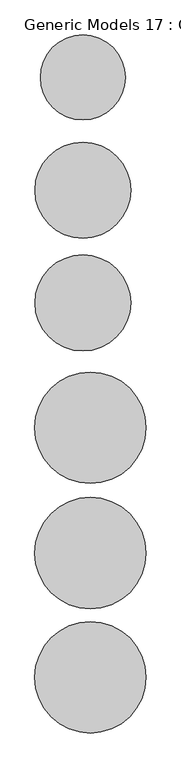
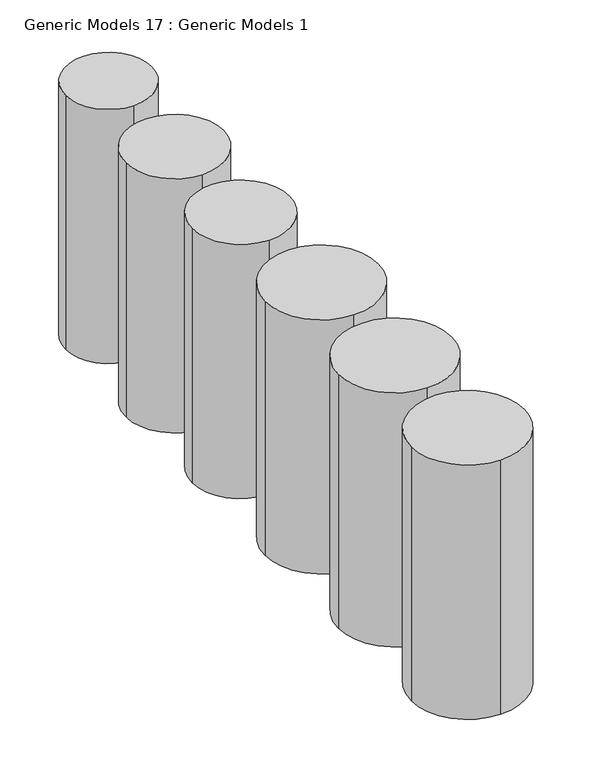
"""IFC4 building model written with IfcOpenShell, lengths in millimetres: proxy geometry, Generic Models 17 : Generic Models 1."""

from ifc_helpers import new_model, si_unit, point, frame, frame_2d, origin, place, context, project, spatial, circle_curve, trimmed, segment, composite_curve, outline, extrude, source, transform, mapped, element, save


def generic_models_17_generic_models_1_3472ba46(model_context):
    return source(origin(), model_context, "Body", "SweptSolid", [
        extrude(outline(composite_curve([segment(trimmed(circle_curve(frame_2d((67247.3675918, -23248.90664)), 1874.6585337), [point((69122.0261163, -23249.0926753))], [point((67247.3369722, -25123.5651735))], False, "CARTESIAN"), True, "CONTINUOUS"), segment(trimmed(circle_curve(frame_2d((67247.2838999, -23249.1200948)), 1874.4450795), [point((67247.3369722, -25123.5651735))], [point((65372.838822, -23249.0428553))], False, "CARTESIAN"), True, "CONTINUOUS"), segment(trimmed(circle_curve(frame_2d((67247.2839012, -23249.0730216)), 1874.4450795), [point((65372.838822, -23249.0428553))], [point((67247.3345161, -21374.6279428))], False, "CARTESIAN"), True, "CONTINUOUS"), segment(trimmed(circle_curve(frame_2d((67247.3675926, -23249.2864763)), 1874.6585337), [point((67247.3345161, -21374.6279428))], [point((69122.0261163, -23249.0926753))], False, "CARTESIAN"), True, "CONTINUOUS")], self_intersect=False)), frame((0.0, 0.0, 44170.0), z_axis=(0.0, 0.0, 1.0), x_axis=(1.0, 0.0, 0.0)), (0.0, 0.0, 1.0), 8903.0475173),
        extrude(outline(composite_curve([segment(trimmed(circle_curve(frame_2d((67247.3675918, -19068.90664)), 1874.6585337), [point((69122.0261163, -19069.0926753))], [point((67247.3369722, -20943.5651735))], False, "CARTESIAN"), True, "CONTINUOUS"), segment(trimmed(circle_curve(frame_2d((67247.2838999, -19069.1200948)), 1874.4450795), [point((67247.3369722, -20943.5651735))], [point((65372.838822, -19069.0428553))], False, "CARTESIAN"), True, "CONTINUOUS"), segment(trimmed(circle_curve(frame_2d((67247.2839012, -19069.0730216)), 1874.4450795), [point((65372.838822, -19069.0428553))], [point((67247.3345161, -17194.6279428))], False, "CARTESIAN"), True, "CONTINUOUS"), segment(trimmed(circle_curve(frame_2d((67247.3675926, -19069.2864763)), 1874.6585337), [point((67247.3345161, -17194.6279428))], [point((69122.0261163, -19069.0926753))], False, "CARTESIAN"), True, "CONTINUOUS")], self_intersect=False)), frame((0.0, 0.0, 44170.0), z_axis=(0.0, 0.0, 1.0), x_axis=(1.0, 0.0, 0.0)), (0.0, 0.0, 1.0), 8903.0475173),
        extrude(outline(composite_curve([segment(trimmed(circle_curve(frame_2d((67247.3675918, -14848.8034499)), 1874.6585337), [point((69122.0261163, -14848.9894851))], [point((67247.3369722, -16723.4619834))], False, "CARTESIAN"), True, "CONTINUOUS"), segment(trimmed(circle_curve(frame_2d((67247.2838999, -14849.0169046)), 1874.4450795), [point((67247.3369722, -16723.4619834))], [point((65372.838822, -14848.9396652))], False, "CARTESIAN"), True, "CONTINUOUS"), segment(trimmed(circle_curve(frame_2d((67247.2839012, -14848.9698315)), 1874.4450795), [point((65372.838822, -14848.9396652))], [point((67247.3345161, -12974.5247527))], False, "CARTESIAN"), True, "CONTINUOUS"), segment(trimmed(circle_curve(frame_2d((67247.3675926, -14849.1832861)), 1874.6585337), [point((67247.3345161, -12974.5247527))], [point((69122.0261163, -14848.9894851))], False, "CARTESIAN"), True, "CONTINUOUS")], self_intersect=False)), frame((0.0, 0.0, 44170.0), z_axis=(0.0, 0.0, 1.0), x_axis=(1.0, 0.0, 0.0)), (0.0, 0.0, 1.0), 8903.0475173),
        extrude(outline(composite_curve([segment(trimmed(circle_curve(frame_2d((66992.4838751, -10648.9366833)), 1615.9138404), [point((68608.3977127, -10648.8403549))], [point((66992.2376609, -12264.850505))], False, "CARTESIAN"), True, "CONTINUOUS"), segment(trimmed(circle_curve(frame_2d((66992.2001529, -10648.9900536)), 1615.8604518), [point((66992.2376609, -12264.850505))], [point((65376.3397024, -10648.923661))], False, "CARTESIAN"), True, "CONTINUOUS"), segment(trimmed(circle_curve(frame_2d((66992.4136058, -10648.8663854)), 1616.0739044), [point((65376.3397024, -10648.923661))], [point((66992.2344503, -9032.792491))], False, "CARTESIAN"), True, "CONTINUOUS"), segment(trimmed(circle_curve(frame_2d((66992.2704652, -10648.91974)), 1616.1272495), [point((66992.2344503, -9032.792491))], [point((68608.3977127, -10648.8403549))], False, "CARTESIAN"), True, "CONTINUOUS")], self_intersect=False)), frame((0.0, 0.0, 44170.0), z_axis=(0.0, 0.0, 1.0), x_axis=(1.0, 0.0, 0.0)), (0.0, 0.0, 1.0), 8903.0475173),
        extrude(outline(composite_curve([segment(trimmed(circle_curve(frame_2d((66992.2704682, -6854.5247072)), 1616.1272495), [point((68608.3977136, -6854.4107769))], [point((66992.2565365, -8470.6519566))], False, "CARTESIAN"), True, "CONTINUOUS"), segment(trimmed(circle_curve(frame_2d((66992.4136092, -6854.5780599)), 1616.0739044), [point((66992.2565365, -8470.6519566))], [point((65376.3397049, -6854.5675123))], False, "CARTESIAN"), True, "CONTINUOUS"), segment(trimmed(circle_curve(frame_2d((66992.2001527, -6854.454395)), 1615.8604518), [point((65376.3397049, -6854.5675123))], [point((66992.2547861, -5238.5939441))], False, "CARTESIAN"), True, "CONTINUOUS"), segment(trimmed(circle_curve(frame_2d((66992.4838761, -6854.5077683)), 1615.9138404), [point((66992.2547861, -5238.5939441))], [point((68608.3977136, -6854.4107769))], False, "CARTESIAN"), True, "CONTINUOUS")], self_intersect=False)), frame((0.0, 0.0, 44170.0), z_axis=(0.0, 0.0, 1.0), x_axis=(1.0, 0.0, 0.0)), (0.0, 0.0, 1.0), 8903.0475173),
        extrude(outline(composite_curve([segment(trimmed(circle_curve(frame_2d((66992.2322183, -3060.310836)), 1429.8460015), [point((66992.2602292, -4490.1568373))], [point((65562.3862171, -3060.277069))], False, "CARTESIAN"), True, "CONTINUOUS"), segment(trimmed(circle_curve(frame_2d((66992.2855933, -3060.0912347)), 1429.8993883), [point((65562.3862171, -3060.277069))], [point((66992.2714796, -1630.1918465))], False, "CARTESIAN"), True, "CONTINUOUS"), segment(trimmed(circle_curve(frame_2d((66992.3984603, -3060.1445917)), 1429.9527508), [point((66992.2714796, -1630.1918465))], [point((68422.3512084, -3060.2337905))], False, "CARTESIAN"), True, "CONTINUOUS"), segment(trimmed(circle_curve(frame_2d((66992.4518203, -3060.2574618)), 1429.8993883), [point((68422.3512084, -3060.2337905))], [point((66992.2602292, -4490.1568373))], False, "CARTESIAN"), True, "CONTINUOUS")], self_intersect=False)), frame((0.0, 0.0, 44170.0), z_axis=(0.0, 0.0, 1.0), x_axis=(1.0, 0.0, 0.0)), (0.0, 0.0, 1.0), 8903.0475173),
    ])


if __name__ == "__main__":
    model = new_model("IFC4")
    model_context = context("Model", 3, world=origin())
    ifc_project = project(units=[si_unit("LENGTHUNIT", "METRE", prefix="MILLI")], contexts=[model_context])
    site = spatial("IfcSite", under=ifc_project)
    building = spatial("IfcBuilding", under=site)
    placement = place(None, origin())
    generic_models_17_generic_models_1_shape = generic_models_17_generic_models_1_3472ba46(model_context)
    element("IfcBuildingElementProxy", 1, Name="Generic Models 17 : Generic Models 1", ObjectType="Generic Models 17 : Generic Models 1", at=placement, inside=building, context=model_context, shape_type="MappedRepresentation", body=[
        mapped(generic_models_17_generic_models_1_shape, transform((0.0, 0.0, 0.0), x_axis=(1.0, 0.0, 0.0), y_axis=(0.0, 1.0, 0.0), z_axis=(0.0, 0.0, 1.0))),
    ])
    save(model, "model.ifc")
